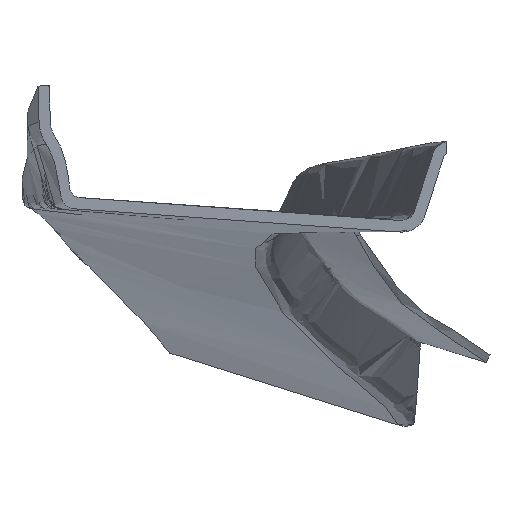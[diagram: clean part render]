
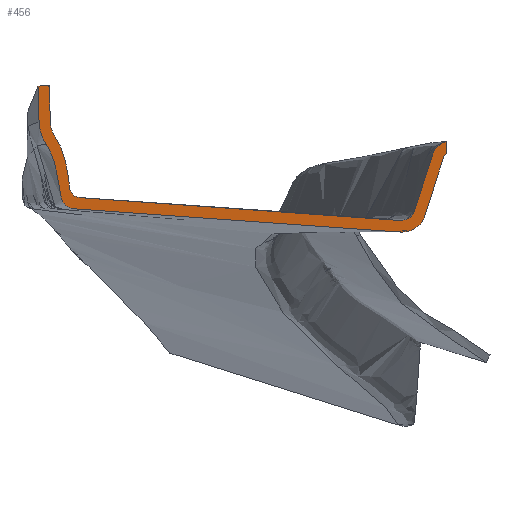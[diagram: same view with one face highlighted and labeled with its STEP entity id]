
A CAD part, left-side view. The second image highlights one B-rep face of the part: STEP entity #456.
In plain terms, the highlighted planar face has unit normal (-0.972, 0.228, 0.053).
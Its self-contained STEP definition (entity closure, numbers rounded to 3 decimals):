
#14=PLANE('',#493);
#28=CIRCLE('',#484,2.5);
#29=CIRCLE('',#485,1.);
#30=LINE('',#1804,#51);
#31=LINE('',#1808,#52);
#32=LINE('',#2642,#53);
#37=LINE('',#2941,#58);
#38=LINE('',#3052,#59);
#39=LINE('',#3320,#60);
#40=LINE('',#3957,#61);
#41=LINE('',#3961,#62);
#42=LINE('',#3996,#63);
#51=VECTOR('',#506,1000.);
#52=VECTOR('',#509,1000.);
#53=VECTOR('',#514,1000.);
#58=VECTOR('',#525,1000.);
#59=VECTOR('',#526,1000.);
#60=VECTOR('',#531,1000.);
#61=VECTOR('',#532,1000.);
#62=VECTOR('',#535,1000.);
#63=VECTOR('',#540,1000.);
#72=ELLIPSE('',#482,1.5,1.45);
#73=ELLIPSE('',#483,1.969,1.5);
#74=ELLIPSE('',#486,3.442,2.988);
#75=ELLIPSE('',#488,5.191,4.9);
#76=ELLIPSE('',#489,3.496,3.404);
#77=ELLIPSE('',#490,15.373,7.797);
#78=ELLIPSE('',#491,3.175,2.322);
#79=ELLIPSE('',#492,14.009,6.533);
#161=ORIENTED_EDGE('',*,*,#295,.T.);
#162=ORIENTED_EDGE('',*,*,#276,.F.);
#163=ORIENTED_EDGE('',*,*,#273,.F.);
#164=ORIENTED_EDGE('',*,*,#290,.F.);
#165=ORIENTED_EDGE('',*,*,#289,.F.);
#166=ORIENTED_EDGE('',*,*,#288,.F.);
#167=ORIENTED_EDGE('',*,*,#287,.F.);
#168=ORIENTED_EDGE('',*,*,#260,.F.);
#169=ORIENTED_EDGE('',*,*,#259,.F.);
#170=ORIENTED_EDGE('',*,*,#258,.F.);
#171=ORIENTED_EDGE('',*,*,#296,.F.);
#172=ORIENTED_EDGE('',*,*,#248,.F.);
#173=ORIENTED_EDGE('',*,*,#247,.F.);
#174=ORIENTED_EDGE('',*,*,#246,.F.);
#175=ORIENTED_EDGE('',*,*,#245,.F.);
#176=ORIENTED_EDGE('',*,*,#244,.F.);
#177=ORIENTED_EDGE('',*,*,#285,.F.);
#178=ORIENTED_EDGE('',*,*,#284,.F.);
#179=ORIENTED_EDGE('',*,*,#279,.F.);
#180=ORIENTED_EDGE('',*,*,#278,.F.);
#244=EDGE_CURVE('',#317,#318,#72,.F.);
#245=EDGE_CURVE('',#318,#319,#30,.F.);
#246=EDGE_CURVE('',#319,#320,#73,.F.);
#247=EDGE_CURVE('',#320,#321,#31,.F.);
#248=EDGE_CURVE('',#321,#322,#28,.F.);
#258=EDGE_CURVE('',#329,#330,#29,.F.);
#259=EDGE_CURVE('',#330,#331,#32,.F.);
#260=EDGE_CURVE('',#331,#332,#74,.F.);
#273=EDGE_CURVE('',#341,#342,#75,.F.);
#276=EDGE_CURVE('',#342,#343,#37,.F.);
#278=EDGE_CURVE('',#345,#346,#38,.F.);
#279=EDGE_CURVE('',#346,#347,#76,.F.);
#284=EDGE_CURVE('',#347,#349,#77,.F.);
#285=EDGE_CURVE('',#349,#317,#39,.F.);
#287=EDGE_CURVE('',#332,#351,#40,.F.);
#288=EDGE_CURVE('',#351,#352,#78,.F.);
#289=EDGE_CURVE('',#352,#353,#41,.F.);
#290=EDGE_CURVE('',#353,#341,#79,.F.);
#295=EDGE_CURVE('',#345,#343,#42,.T.);
#296=EDGE_CURVE('',#322,#329,#390,.T.);
#317=VERTEX_POINT('',#1801);
#318=VERTEX_POINT('',#1803);
#319=VERTEX_POINT('',#1805);
#320=VERTEX_POINT('',#1807);
#321=VERTEX_POINT('',#1809);
#322=VERTEX_POINT('',#1811);
#329=VERTEX_POINT('',#2639);
#330=VERTEX_POINT('',#2641);
#331=VERTEX_POINT('',#2643);
#332=VERTEX_POINT('',#2645);
#341=VERTEX_POINT('',#2862);
#342=VERTEX_POINT('',#2864);
#343=VERTEX_POINT('',#2940);
#345=VERTEX_POINT('',#3051);
#346=VERTEX_POINT('',#3053);
#347=VERTEX_POINT('',#3055);
#349=VERTEX_POINT('',#3319);
#351=VERTEX_POINT('',#3958);
#352=VERTEX_POINT('',#3960);
#353=VERTEX_POINT('',#3962);
#390=B_SPLINE_CURVE_WITH_KNOTS('',3,(#3997,#3998,#3999,#4000),
 .UNSPECIFIED.,.F.,.F.,(4,4),(0.007,0.009),
 .UNSPECIFIED.);
#403=EDGE_LOOP('',(#161,#162,#163,#164,#165,#166,#167,#168,#169,#170,#171,
#172,#173,#174,#175,#176,#177,#178,#179,#180));
#426=FACE_BOUND('',#403,.T.);
#456=ADVANCED_FACE('',(#426),#14,.F.);
#482=AXIS2_PLACEMENT_3D('',#1802,#504,#505);
#483=AXIS2_PLACEMENT_3D('',#1806,#507,#508);
#484=AXIS2_PLACEMENT_3D('',#1810,#510,#511);
#485=AXIS2_PLACEMENT_3D('',#2640,#512,#513);
#486=AXIS2_PLACEMENT_3D('',#2644,#515,#516);
#488=AXIS2_PLACEMENT_3D('',#2863,#523,#524);
#489=AXIS2_PLACEMENT_3D('',#3054,#527,#528);
#490=AXIS2_PLACEMENT_3D('',#3318,#529,#530);
#491=AXIS2_PLACEMENT_3D('',#3959,#533,#534);
#492=AXIS2_PLACEMENT_3D('',#3963,#536,#537);
#493=AXIS2_PLACEMENT_3D('',#3995,#538,#539);
#504=DIRECTION('',(0.972,-0.228,-0.053));
#505=DIRECTION('',(-0.054,-0.001,-0.999));
#506=DIRECTION('',(0.231,0.97,0.069));
#507=DIRECTION('',(0.972,-0.228,-0.053));
#508=DIRECTION('',(0.23,0.972,0.046));
#509=DIRECTION('',(0.02,0.306,-0.952));
#510=DIRECTION('',(-0.972,0.228,0.053));
#511=DIRECTION('',(-0.231,-0.97,-0.069));
#512=DIRECTION('',(0.972,-0.228,-0.053));
#513=DIRECTION('',(-0.231,-0.97,-0.069));
#514=DIRECTION('',(-0.02,-0.306,0.952));
#515=DIRECTION('',(-0.972,0.228,0.053));
#516=DIRECTION('',(0.234,0.937,0.261));
#523=DIRECTION('',(-0.972,0.228,0.053));
#524=DIRECTION('',(-0.102,-0.211,-0.972));
#525=DIRECTION('',(-0.061,-0.03,-0.998));
#526=DIRECTION('',(0.061,0.03,0.998));
#527=DIRECTION('',(0.972,-0.228,-0.053));
#528=DIRECTION('',(0.,0.226,-0.974));
#529=DIRECTION('',(-0.972,0.228,0.053));
#530=DIRECTION('',(-0.007,-0.256,0.967));
#531=DIRECTION('',(0.08,0.113,0.99));
#532=DIRECTION('',(-0.231,-0.97,-0.069));
#533=DIRECTION('',(-0.972,0.228,0.053));
#534=DIRECTION('',(-0.08,-0.536,0.84));
#535=DIRECTION('',(-0.095,-0.179,-0.979));
#536=DIRECTION('',(0.972,-0.228,-0.053));
#537=DIRECTION('',(0.,-0.226,0.974));
#538=DIRECTION('',(0.972,-0.228,-0.053));
#539=DIRECTION('',(-0.228,-0.974,0.));
#540=DIRECTION('',(0.226,0.973,-0.035));
#1801=CARTESIAN_POINT('',(0.275,-15.972,30.788));
#1802=CARTESIAN_POINT('',(-0.046,-17.378,30.943));
#1803=CARTESIAN_POINT('',(-0.101,-17.267,29.448));
#1804=CARTESIAN_POINT('',(-0.101,-17.267,29.448));
#1805=CARTESIAN_POINT('',(-9.947,-58.619,26.494));
#1806=CARTESIAN_POINT('',(-9.899,-58.764,27.987));
#1807=CARTESIAN_POINT('',(-10.356,-60.622,27.6));
#1808=CARTESIAN_POINT('',(-10.356,-60.622,27.6));
#1809=CARTESIAN_POINT('',(-10.512,-63.02,35.049));
#1810=CARTESIAN_POINT('',(-11.095,-65.331,34.293));
#1811=CARTESIAN_POINT('',(-10.826,-64.744,36.708));
#2639=CARTESIAN_POINT('',(-10.917,-64.757,35.092));
#2640=CARTESIAN_POINT('',(-11.095,-65.331,34.293));
#2641=CARTESIAN_POINT('',(-10.862,-64.406,34.595));
#2642=CARTESIAN_POINT('',(-10.702,-61.956,26.982));
#2643=CARTESIAN_POINT('',(-10.702,-61.956,26.982));
#2644=CARTESIAN_POINT('',(-9.899,-58.764,27.987));
#2645=CARTESIAN_POINT('',(-10.,-58.5,25.));
#2862=CARTESIAN_POINT('',(1.284,-12.961,36.365));
#2863=CARTESIAN_POINT('',(0.546,-16.811,39.381));
#2864=CARTESIAN_POINT('',(1.66,-12.029,39.279));
#2940=CARTESIAN_POINT('',(1.943,-11.891,43.893));
#2941=CARTESIAN_POINT('',(1.66,-12.029,39.279));
#3051=CARTESIAN_POINT('',(1.604,-13.352,43.945));
#3052=CARTESIAN_POINT('',(1.606,-13.351,43.978));
#3053=CARTESIAN_POINT('',(1.312,-13.493,39.188));
#3054=CARTESIAN_POINT('',(0.546,-16.811,39.381));
#3055=CARTESIAN_POINT('',(1.065,-14.11,37.286));
#3318=CARTESIAN_POINT('',(1.876,-7.643,24.342));
#3319=CARTESIAN_POINT('',(0.377,-15.829,32.043));
#3320=CARTESIAN_POINT('',(0.377,-15.829,32.043));
#3957=CARTESIAN_POINT('',(-10.,-58.5,25.));
#3958=CARTESIAN_POINT('',(0.,-16.5,28.));
#3959=CARTESIAN_POINT('',(-0.046,-17.378,30.943));
#3960=CARTESIAN_POINT('',(0.465,-14.881,29.572));
#3961=CARTESIAN_POINT('',(0.465,-14.881,29.572));
#3962=CARTESIAN_POINT('',(0.771,-14.305,32.729));
#3963=CARTESIAN_POINT('',(1.876,-7.643,24.342));
#3995=CARTESIAN_POINT('',(-0.046,-17.378,30.943));
#3996=CARTESIAN_POINT('',(0.735,-17.093,44.078));
#3997=CARTESIAN_POINT('',(-10.826,-64.744,36.708));
#3998=CARTESIAN_POINT('',(-10.856,-64.748,36.17));
#3999=CARTESIAN_POINT('',(-10.886,-64.752,35.631));
#4000=CARTESIAN_POINT('',(-10.917,-64.757,35.092));
